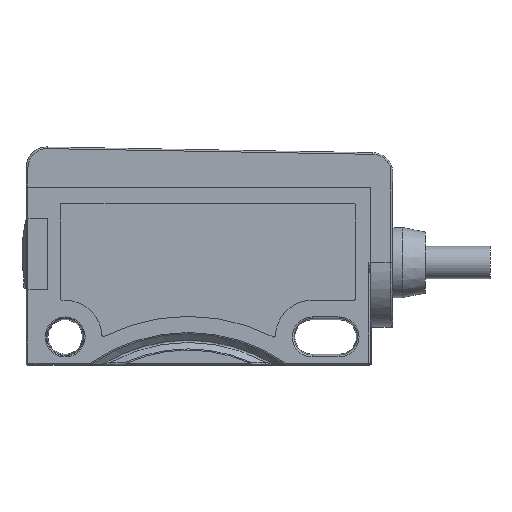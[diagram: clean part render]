
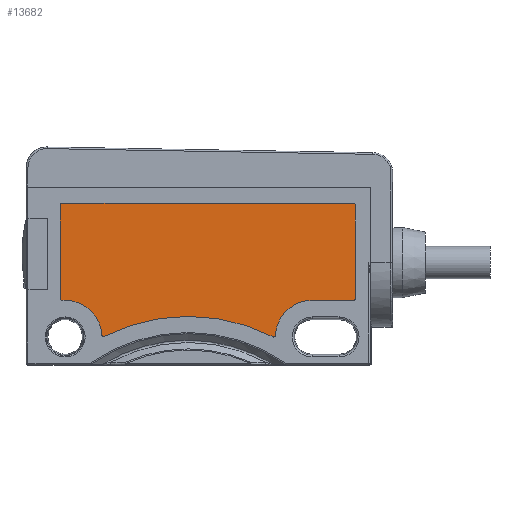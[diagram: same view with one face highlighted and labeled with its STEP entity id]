
A CAD part, left-side view. The second image highlights one B-rep face of the part: STEP entity #13682.
In plain terms, the highlighted planar face has unit normal (-1, 0, 0).
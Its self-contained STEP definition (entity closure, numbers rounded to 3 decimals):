
#8554=CARTESIAN_POINT('',(-5.8,12.7,-1.35));
#8555=DIRECTION('',(1.,0.,0.));
#8556=DIRECTION('',(0.,0.707,-0.707));
#8557=AXIS2_PLACEMENT_3D('',#8554,#8555,#8556);
#8559=CARTESIAN_POINT('',(-5.8,12.7,7.35));
#8560=DIRECTION('',(1.,0.,0.));
#8561=DIRECTION('',(0.,1.,0.));
#8562=AXIS2_PLACEMENT_3D('',#8559,#8560,#8561);
#8564=CARTESIAN_POINT('',(-5.8,12.7,7.35));
#8565=DIRECTION('',(1.,0.,0.));
#8566=DIRECTION('',(0.,0.707,0.707));
#8567=AXIS2_PLACEMENT_3D('',#8564,#8565,#8566);
#8569=CARTESIAN_POINT('',(-5.8,-14.35,7.35));
#8570=DIRECTION('',(1.,0.,0.));
#8571=DIRECTION('',(0.,0.,1.));
#8572=AXIS2_PLACEMENT_3D('',#8569,#8570,#8571);
#8574=CARTESIAN_POINT('',(-5.8,-14.35,7.35));
#8575=DIRECTION('',(1.,0.,0.));
#8576=DIRECTION('',(0.,-0.707,0.707));
#8577=AXIS2_PLACEMENT_3D('',#8574,#8575,#8576);
#8579=CARTESIAN_POINT('',(-5.8,-14.35,-1.35));
#8580=DIRECTION('',(1.,0.,0.));
#8581=DIRECTION('',(0.,-1.,0.));
#8582=AXIS2_PLACEMENT_3D('',#8579,#8580,#8581);
#8584=CARTESIAN_POINT('',(-5.8,-14.35,-1.35));
#8585=DIRECTION('',(1.,0.,0.));
#8586=DIRECTION('',(0.,-0.707,-0.707));
#8587=AXIS2_PLACEMENT_3D('',#8584,#8585,#8586);
#8589=CARTESIAN_POINT('',(-5.8,-10.5,-4.9));
#8590=DIRECTION('',(-1.,0.,0.));
#8591=DIRECTION('',(0.,0.,1.));
#8592=AXIS2_PLACEMENT_3D('',#8589,#8590,#8591);
#8594=CARTESIAN_POINT('',(-5.8,-6.953,-4.754));
#8595=DIRECTION('',(1.,0.,0.));
#8596=DIRECTION('',(0.,-0.999,-0.041));
#8597=AXIS2_PLACEMENT_3D('',#8594,#8595,#8596);
#8599=CARTESIAN_POINT('',(-5.8,-6.953,-4.754));
#8600=DIRECTION('',(1.,0.,0.));
#8601=DIRECTION('',(0.,-0.504,-0.864));
#8602=AXIS2_PLACEMENT_3D('',#8599,#8600,#8601);
#8604=CARTESIAN_POINT('',(-5.8,1.,-20.3));
#8605=DIRECTION('',(-1.,0.,0.));
#8606=DIRECTION('',(0.,-0.455,0.89));
#8607=AXIS2_PLACEMENT_3D('',#8604,#8605,#8606);
#8609=CARTESIAN_POINT('',(-5.8,8.855,-4.705));
#8610=DIRECTION('',(1.,0.,0.));
#8611=DIRECTION('',(0.,-0.45,-0.893));
#8612=AXIS2_PLACEMENT_3D('',#8609,#8610,#8611);
#8614=CARTESIAN_POINT('',(-5.8,8.855,-4.705));
#8615=DIRECTION('',(1.,0.,0.));
#8616=DIRECTION('',(0.,0.501,-0.866));
#8617=AXIS2_PLACEMENT_3D('',#8614,#8615,#8616);
#8619=CARTESIAN_POINT('',(-5.8,12.4,-4.9));
#8620=DIRECTION('',(-1.,0.,0.));
#8621=DIRECTION('',(0.,-0.998,0.055));
#8622=AXIS2_PLACEMENT_3D('',#8619,#8620,#8621);
#8624=CARTESIAN_POINT('',(-5.8,12.7,-1.35));
#8625=DIRECTION('',(1.,0.,0.));
#8626=DIRECTION('',(0.,0.,-1.));
#8627=AXIS2_PLACEMENT_3D('',#8624,#8625,#8626);
#8633=DIRECTION('',(0.,-1.,0.));
#8634=VECTOR('',#8633,0.3);
#8635=CARTESIAN_POINT('',(-5.8,12.7,-1.5));
#8636=LINE('',#8635,#8634);
#8649=DIRECTION('',(0.,0.,-1.));
#8650=VECTOR('',#8649,8.7);
#8651=CARTESIAN_POINT('',(-5.8,12.85,7.35));
#8652=LINE('',#8651,#8650);
#8673=DIRECTION('',(0.,1.,0.));
#8674=VECTOR('',#8673,27.05);
#8675=CARTESIAN_POINT('',(-5.8,-14.35,7.5));
#8676=LINE('',#8675,#8674);
#8689=DIRECTION('',(0.,0.,1.));
#8690=VECTOR('',#8689,8.7);
#8691=CARTESIAN_POINT('',(-5.8,-14.5,-1.35));
#8692=LINE('',#8691,#8690);
#8705=DIRECTION('',(0.,-1.,0.));
#8706=VECTOR('',#8705,3.85);
#8707=CARTESIAN_POINT('',(-5.8,-10.5,-1.5));
#8708=LINE('',#8707,#8706);
#9614=CARTESIAN_POINT('',(-5.8,12.806,-1.456));
#9615=CARTESIAN_POINT('',(-5.8,12.85,-1.35));
#9616=VERTEX_POINT('',#9614);
#9617=VERTEX_POINT('',#9615);
#9618=CARTESIAN_POINT('',(-5.8,12.85,7.35));
#9619=CARTESIAN_POINT('',(-5.8,12.806,7.456));
#9620=VERTEX_POINT('',#9618);
#9621=VERTEX_POINT('',#9619);
#9622=CARTESIAN_POINT('',(-5.8,12.7,7.5));
#9623=VERTEX_POINT('',#9622);
#9624=CARTESIAN_POINT('',(-5.8,-14.35,7.5));
#9625=CARTESIAN_POINT('',(-5.8,-14.456,7.456));
#9626=VERTEX_POINT('',#9624);
#9627=VERTEX_POINT('',#9625);
#9628=CARTESIAN_POINT('',(-5.8,-14.5,7.35));
#9629=VERTEX_POINT('',#9628);
#9630=CARTESIAN_POINT('',(-5.8,-14.5,-1.35));
#9631=CARTESIAN_POINT('',(-5.8,-14.456,-1.456));
#9632=VERTEX_POINT('',#9630);
#9633=VERTEX_POINT('',#9631);
#9634=CARTESIAN_POINT('',(-5.8,-14.35,-1.5));
#9635=VERTEX_POINT('',#9634);
#9636=CARTESIAN_POINT('',(-5.8,-10.5,-1.5));
#9637=CARTESIAN_POINT('',(-5.8,-7.103,-4.76));
#9638=VERTEX_POINT('',#9636);
#9639=VERTEX_POINT('',#9637);
#9640=CARTESIAN_POINT('',(-5.8,-7.029,-4.884));
#9641=VERTEX_POINT('',#9640);
#9642=CARTESIAN_POINT('',(-5.8,-6.885,-4.888));
#9643=VERTEX_POINT('',#9642);
#9644=CARTESIAN_POINT('',(-5.8,8.788,-4.838));
#9645=VERTEX_POINT('',#9644);
#9646=CARTESIAN_POINT('',(-5.8,8.931,-4.834));
#9647=VERTEX_POINT('',#9646);
#9648=CARTESIAN_POINT('',(-5.8,9.005,-4.713));
#9649=VERTEX_POINT('',#9648);
#9650=CARTESIAN_POINT('',(-5.8,12.4,-1.5));
#9651=VERTEX_POINT('',#9650);
#9652=CARTESIAN_POINT('',(-5.8,12.7,-1.5));
#9653=VERTEX_POINT('',#9652);
#13637=CARTESIAN_POINT('',(-5.8,-0.825,1.298));
#13638=DIRECTION('',(1.,0.,0.));
#13639=DIRECTION('',(0.,0.,-1.));
#13640=AXIS2_PLACEMENT_3D('',#13637,#13638,#13639);
#13641=PLANE('',#13640);
#13643=ORIENTED_EDGE('',*,*,#13642,.T.);
#13645=ORIENTED_EDGE('',*,*,#13644,.F.);
#13647=ORIENTED_EDGE('',*,*,#13646,.T.);
#13649=ORIENTED_EDGE('',*,*,#13648,.T.);
#13651=ORIENTED_EDGE('',*,*,#13650,.F.);
#13653=ORIENTED_EDGE('',*,*,#13652,.T.);
#13655=ORIENTED_EDGE('',*,*,#13654,.T.);
#13657=ORIENTED_EDGE('',*,*,#13656,.F.);
#13659=ORIENTED_EDGE('',*,*,#13658,.T.);
#13661=ORIENTED_EDGE('',*,*,#13660,.T.);
#13663=ORIENTED_EDGE('',*,*,#13662,.F.);
#13665=ORIENTED_EDGE('',*,*,#13664,.T.);
#13667=ORIENTED_EDGE('',*,*,#13666,.T.);
#13669=ORIENTED_EDGE('',*,*,#13668,.T.);
#13671=ORIENTED_EDGE('',*,*,#13670,.T.);
#13672=ORIENTED_EDGE('',*,*,#13624,.T.);
#13673=ORIENTED_EDGE('',*,*,#13632,.T.);
#13675=ORIENTED_EDGE('',*,*,#13674,.T.);
#13677=ORIENTED_EDGE('',*,*,#13676,.F.);
#13679=ORIENTED_EDGE('',*,*,#13678,.T.);
#13680=EDGE_LOOP('',(#13643,#13645,#13647,#13649,#13651,#13653,#13655,#13657,
#13659,#13661,#13663,#13665,#13667,#13669,#13671,#13672,#13673,#13675,#13677,
#13679));
#13681=FACE_OUTER_BOUND('',#13680,.F.);
#13682=ADVANCED_FACE('',(#13681),#13641,.F.);
#8558=CIRCLE('',#8557,0.15);
#8563=CIRCLE('',#8562,0.15);
#8568=CIRCLE('',#8567,0.15);
#8573=CIRCLE('',#8572,0.15);
#8578=CIRCLE('',#8577,0.15);
#8583=CIRCLE('',#8582,0.15);
#8588=CIRCLE('',#8587,0.15);
#8593=CIRCLE('',#8592,3.4);
#8598=CIRCLE('',#8597,0.15);
#8603=CIRCLE('',#8602,0.15);
#8608=CIRCLE('',#8607,17.312);
#8613=CIRCLE('',#8612,0.15);
#8618=CIRCLE('',#8617,0.15);
#8623=CIRCLE('',#8622,3.4);
#8628=CIRCLE('',#8627,0.15);
#13624=EDGE_CURVE('',#9645,#9647,#8613,.T.);
#13632=EDGE_CURVE('',#9647,#9649,#8618,.T.);
#13642=EDGE_CURVE('',#9616,#9617,#8558,.T.);
#13644=EDGE_CURVE('',#9620,#9617,#8652,.T.);
#13646=EDGE_CURVE('',#9620,#9621,#8563,.T.);
#13648=EDGE_CURVE('',#9621,#9623,#8568,.T.);
#13650=EDGE_CURVE('',#9626,#9623,#8676,.T.);
#13652=EDGE_CURVE('',#9626,#9627,#8573,.T.);
#13654=EDGE_CURVE('',#9627,#9629,#8578,.T.);
#13656=EDGE_CURVE('',#9632,#9629,#8692,.T.);
#13658=EDGE_CURVE('',#9632,#9633,#8583,.T.);
#13660=EDGE_CURVE('',#9633,#9635,#8588,.T.);
#13662=EDGE_CURVE('',#9638,#9635,#8708,.T.);
#13664=EDGE_CURVE('',#9638,#9639,#8593,.T.);
#13666=EDGE_CURVE('',#9639,#9641,#8598,.T.);
#13668=EDGE_CURVE('',#9641,#9643,#8603,.T.);
#13670=EDGE_CURVE('',#9643,#9645,#8608,.T.);
#13674=EDGE_CURVE('',#9649,#9651,#8623,.T.);
#13676=EDGE_CURVE('',#9653,#9651,#8636,.T.);
#13678=EDGE_CURVE('',#9653,#9616,#8628,.T.);
